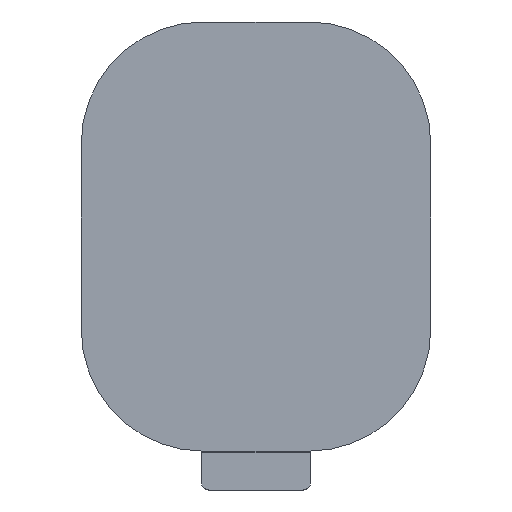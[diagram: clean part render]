
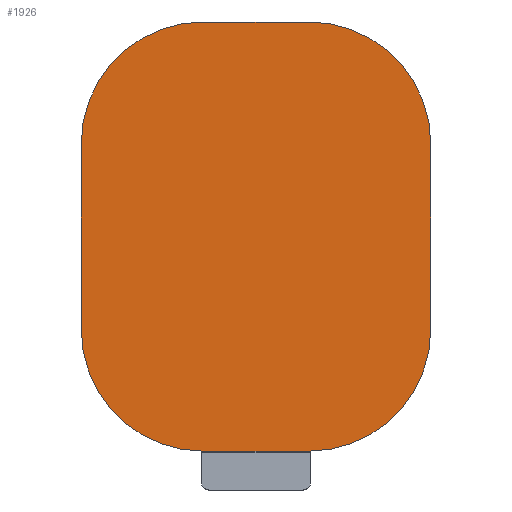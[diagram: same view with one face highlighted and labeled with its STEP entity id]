
A CAD part, front view. The second image highlights one B-rep face of the part: STEP entity #1926.
In plain terms, the highlighted planar face has unit normal (0, -1, 0).
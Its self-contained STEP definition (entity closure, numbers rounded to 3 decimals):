
#1855=CARTESIAN_POINT('Axis2P3D Location',(0.,-1.5,0.)) ;
#1860=CARTESIAN_POINT('Axis2P3D Location',(1.8,-1.5,3.15)) ;
#1864=CARTESIAN_POINT('Vertex',(5.931,-1.5,3.15)) ;
#1866=CARTESIAN_POINT('Vertex',(1.8,-1.5,7.281)) ;
#1869=CARTESIAN_POINT('Line Origine',(0.,-1.5,7.281)) ;
#1873=CARTESIAN_POINT('Vertex',(-1.8,-1.5,7.281)) ;
#1876=CARTESIAN_POINT('Axis2P3D Location',(-1.8,-1.5,3.15)) ;
#1880=CARTESIAN_POINT('Vertex',(-5.931,-1.5,3.15)) ;
#1883=CARTESIAN_POINT('Line Origine',(-5.931,-1.5,0.)) ;
#1887=CARTESIAN_POINT('Vertex',(-5.931,-1.5,-3.15)) ;
#1890=CARTESIAN_POINT('Axis2P3D Location',(-1.8,-1.5,-3.15)) ;
#1894=CARTESIAN_POINT('Vertex',(-1.8,-1.5,-7.281)) ;
#1897=CARTESIAN_POINT('Line Origine',(0.,-1.5,-7.281)) ;
#1901=CARTESIAN_POINT('Vertex',(1.8,-1.5,-7.281)) ;
#1904=CARTESIAN_POINT('Axis2P3D Location',(1.8,-1.5,-3.15)) ;
#1908=CARTESIAN_POINT('Vertex',(5.931,-1.5,-3.15)) ;
#1911=CARTESIAN_POINT('Line Origine',(5.931,-1.5,0.)) ;
#1871=VECTOR('Line Direction',#1870,1.) ;
#1885=VECTOR('Line Direction',#1884,1.) ;
#1899=VECTOR('Line Direction',#1898,1.) ;
#1913=VECTOR('Line Direction',#1912,1.) ;
#1856=DIRECTION('Axis2P3D Direction',(0.,1.,0.)) ;
#1857=DIRECTION('Axis2P3D XDirection',(0.,0.,1.)) ;
#1861=DIRECTION('Axis2P3D Direction',(0.,1.,0.)) ;
#1870=DIRECTION('Vector Direction',(-1.,0.,0.)) ;
#1877=DIRECTION('Axis2P3D Direction',(0.,1.,0.)) ;
#1884=DIRECTION('Vector Direction',(0.,0.,1.)) ;
#1891=DIRECTION('Axis2P3D Direction',(0.,1.,0.)) ;
#1898=DIRECTION('Vector Direction',(1.,0.,0.)) ;
#1905=DIRECTION('Axis2P3D Direction',(0.,1.,0.)) ;
#1912=DIRECTION('Vector Direction',(0.,0.,1.)) ;
#1858=AXIS2_PLACEMENT_3D('Plane Axis2P3D',#1855,#1856,#1857) ;
#1862=AXIS2_PLACEMENT_3D('Circle Axis2P3D',#1860,#1861,$) ;
#1878=AXIS2_PLACEMENT_3D('Circle Axis2P3D',#1876,#1877,$) ;
#1892=AXIS2_PLACEMENT_3D('Circle Axis2P3D',#1890,#1891,$) ;
#1906=AXIS2_PLACEMENT_3D('Circle Axis2P3D',#1904,#1905,$) ;
#1872=LINE('Line',#1869,#1871) ;
#1886=LINE('Line',#1883,#1885) ;
#1900=LINE('Line',#1897,#1899) ;
#1914=LINE('Line',#1911,#1913) ;
#1863=CIRCLE('generated circle',#1862,4.131) ;
#1879=CIRCLE('generated circle',#1878,4.131) ;
#1893=CIRCLE('generated circle',#1892,4.131) ;
#1907=CIRCLE('generated circle',#1906,4.131) ;
#1859=PLANE('',#1858) ;
#1868=EDGE_CURVE('',#1865,#1867,#1863,.F.) ;
#1875=EDGE_CURVE('',#1867,#1874,#1872,.T.) ;
#1882=EDGE_CURVE('',#1874,#1881,#1879,.F.) ;
#1889=EDGE_CURVE('',#1881,#1888,#1886,.F.) ;
#1896=EDGE_CURVE('',#1888,#1895,#1893,.F.) ;
#1903=EDGE_CURVE('',#1895,#1902,#1900,.T.) ;
#1910=EDGE_CURVE('',#1902,#1909,#1907,.F.) ;
#1915=EDGE_CURVE('',#1909,#1865,#1914,.T.) ;
#1917=ORIENTED_EDGE('',*,*,#1868,.T.) ;
#1918=ORIENTED_EDGE('',*,*,#1875,.T.) ;
#1919=ORIENTED_EDGE('',*,*,#1882,.T.) ;
#1920=ORIENTED_EDGE('',*,*,#1889,.T.) ;
#1921=ORIENTED_EDGE('',*,*,#1896,.T.) ;
#1922=ORIENTED_EDGE('',*,*,#1903,.T.) ;
#1923=ORIENTED_EDGE('',*,*,#1910,.T.) ;
#1924=ORIENTED_EDGE('',*,*,#1915,.T.) ;
#1916=EDGE_LOOP('',(#1917,#1918,#1919,#1920,#1921,#1922,#1923,#1924)) ;
#1865=VERTEX_POINT('',#1864) ;
#1867=VERTEX_POINT('',#1866) ;
#1874=VERTEX_POINT('',#1873) ;
#1881=VERTEX_POINT('',#1880) ;
#1888=VERTEX_POINT('',#1887) ;
#1895=VERTEX_POINT('',#1894) ;
#1902=VERTEX_POINT('',#1901) ;
#1909=VERTEX_POINT('',#1908) ;
#1926=ADVANCED_FACE('2P LP INTEFACE - KEY A',(#1925),#1859,.F.) ;
#1925=FACE_OUTER_BOUND('',#1916,.T.) ;
